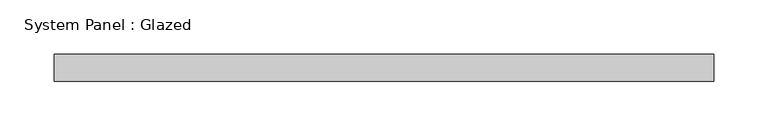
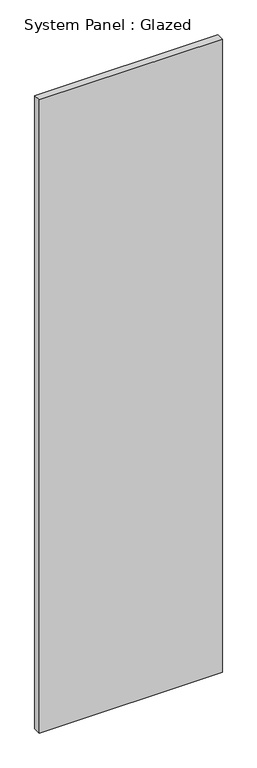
"""IFC4 building model written with IfcOpenShell, lengths in millimetres: plate geometry, System Panel : Glazed."""

import ifcopenshell
import ifcopenshell.guid

model = None  # the IFC model being written
_history = None  # IfcOwnerHistory: only IFC2X3 demands one
_inside = {}  # id of a spatial element -> (the spatial element, [elements in it])
_under = {}  # id of a project, library or spatial element -> (it, [spatial elements below it])
_declared = {}  # id of a project -> (the project, [libraries it declares])
_typed = {}  # id of a type object -> (the type object, [elements of that type])
_made_of = {}  # id of a material, layer set ... -> (it, [elements and type objects made of it])


def new_model(schema):
    """Start an empty IFC model of exactly this schema.

    Asked for "IFC4X3", IfcOpenShell would pick the latest addendum, in which some entities
    have other attributes; the version numbers below select the first issue.
    IFC2X3 requires an IfcOwnerHistory on every rooted entity: one is made here for all.
    """
    global model, _history
    if schema == "IFC4X3":
        model = ifcopenshell.file(schema_version=(4, 3, 0, 0))
    else:
        model = ifcopenshell.file(schema=schema)
    _inside.clear()
    _under.clear()
    _declared.clear()
    _typed.clear()
    _made_of.clear()
    _history = None
    if model.schema == "IFC2X3":
        org = make("IfcOrganization", Name="unknown")
        user = make(
            "IfcPersonAndOrganization",
            ThePerson=make("IfcPerson", FamilyName="unknown"),
            TheOrganization=org,
        )
        app = make(
            "IfcApplication",
            ApplicationDeveloper=org,
            Version="unknown",
            ApplicationFullName="unknown",
            ApplicationIdentifier="unknown",
        )
        _history = make(
            "IfcOwnerHistory",
            OwningUser=user,
            OwningApplication=app,
            ChangeAction="ADDED",
            CreationDate=0,
        )
    return model


def make(cls, **values):
    """One entity of the class cls with the attributes given. An attribute that is None is left unset."""
    return model.create_entity(
        cls, **{name: value for name, value in values.items() if value is not None}
    )


def rooted(cls, **values):
    """An entity with a GlobalId (a new one), such as an element, a storey or a relation."""
    return make(cls, GlobalId=ifcopenshell.guid.new(), OwnerHistory=_history, **values)


def si_unit(unit_type, name, prefix=None):
    """IfcSIUnit, for example si_unit("LENGTHUNIT", "METRE", prefix="MILLI")."""
    return make("IfcSIUnit", UnitType=unit_type, Prefix=prefix, Name=name)


def assignment(units):
    """IfcUnitAssignment: the units of a project."""
    return None if units is None else make("IfcUnitAssignment", Units=units)


def point(xyz):
    """IfcCartesianPoint."""
    return None if xyz is None else make("IfcCartesianPoint", Coordinates=xyz)


def direction(xyz):
    """IfcDirection."""
    return None if xyz is None else make("IfcDirection", DirectionRatios=xyz)


def frame(location, z_axis=None, x_axis=None):
    """IfcAxis2Placement3D, a coordinate frame: its origin and axes. An axis left out is left unset."""
    return make(
        "IfcAxis2Placement3D",
        Location=point(location),
        Axis=direction(z_axis),
        RefDirection=direction(x_axis),
    )


def origin():
    """The frame at (0, 0, 0) with its axes left unset."""
    return frame((0.0, 0.0, 0.0))


def origin_with_axes():
    """The frame at (0, 0, 0) with the z axis (0, 0, 1) and the x axis (1, 0, 0) written out."""
    return frame((0.0, 0.0, 0.0), z_axis=(0.0, 0.0, 1.0), x_axis=(1.0, 0.0, 0.0))


def place(relative_to, where):
    """IfcLocalPlacement: puts the frame where relative to a parent placement (None: the world)."""
    return make(
        "IfcLocalPlacement", PlacementRelTo=relative_to, RelativePlacement=where
    )


def context(
    kind, dimensions, precision=None, world=None, true_north=None, identifier=None
):
    """IfcGeometricRepresentationContext, for example the 3D "Model" context."""
    return make(
        "IfcGeometricRepresentationContext",
        ContextIdentifier=identifier,
        ContextType=kind,
        CoordinateSpaceDimension=dimensions,
        Precision=precision,
        WorldCoordinateSystem=world,
        TrueNorth=true_north,
    )


def project(units=None, contexts=None):
    """IfcProject with its units and contexts."""
    return rooted(
        "IfcProject",
        Name="project",
        RepresentationContexts=contexts,
        UnitsInContext=assignment(units),
    )


def spatial(cls, under=None, at=None, **own):
    """A site, building, storey or space (cls), placed at a placement, below another one or the project."""
    s = rooted(cls, ObjectPlacement=at, **own)
    if under is not None:
        _under.setdefault(under.id(), (under, []))[1].append(s)
    return s


def polyline(points):
    """IfcPolyline through the points."""
    return make("IfcPolyline", Points=[point(p) for p in points])


def outline(outer, holes=None, kind="AREA"):
    """IfcArbitraryClosedProfileDef: a profile drawn as a closed curve; with holes, ...WithVoids."""
    if holes is None:
        return make("IfcArbitraryClosedProfileDef", ProfileType=kind, OuterCurve=outer)
    return make(
        "IfcArbitraryProfileDefWithVoids",
        ProfileType=kind,
        OuterCurve=outer,
        InnerCurves=holes,
    )


def extrude(swept, where, along, depth):
    """IfcExtrudedAreaSolid: the profile swept, set in the frame where, extruded along a direction by depth."""
    return make(
        "IfcExtrudedAreaSolid",
        SweptArea=swept,
        Position=where,
        ExtrudedDirection=direction(along),
        Depth=depth,
    )


def shape(context_of_items, identifier, shape_type, items):
    """IfcShapeRepresentation: the items that make up one representation, for example the "Body"."""
    return make(
        "IfcShapeRepresentation",
        ContextOfItems=context_of_items,
        RepresentationIdentifier=identifier,
        RepresentationType=shape_type,
        Items=items,
    )


def source(mapping_origin, context_of_items, identifier, shape_type, items):
    """IfcRepresentationMap: a shape defined once, which mapped items show again and again."""
    return make(
        "IfcRepresentationMap",
        MappingOrigin=mapping_origin,
        MappedRepresentation=shape(context_of_items, identifier, shape_type, items),
    )


def transform(
    local_origin,
    x_axis=None,
    y_axis=None,
    z_axis=None,
    scale=None,
    scale2=None,
    scale3=None,
    uniform=True,
):
    """IfcCartesianTransformationOperator3D, or its non-uniform kind. x_axis, y_axis, z_axis: its Axis1, 2, 3."""
    if uniform:
        return make(
            "IfcCartesianTransformationOperator3D",
            Axis1=direction(x_axis),
            Axis2=direction(y_axis),
            LocalOrigin=point(local_origin),
            Scale=scale,
            Axis3=direction(z_axis),
        )
    return make(
        "IfcCartesianTransformationOperator3DnonUniform",
        Axis1=direction(x_axis),
        Axis2=direction(y_axis),
        LocalOrigin=point(local_origin),
        Scale=scale,
        Axis3=direction(z_axis),
        Scale2=scale2,
        Scale3=scale3,
    )


def mapped(mapping_source, mapping_target):
    """IfcMappedItem: shows the shape of a source again, moved by a transform."""
    return make(
        "IfcMappedItem", MappingSource=mapping_source, MappingTarget=mapping_target
    )


def made_of(thing, what):
    """Note that an element or type object is made of a material, layer set ...; save() writes the relation."""
    if what is not None:
        _made_of.setdefault(what.id(), (what, []))[1].append(thing)
    return thing


def element(
    cls,
    number,
    at=None,
    inside=None,
    cuts=None,
    type_object=None,
    material=None,
    context=None,
    identifier="Body",
    shape_type=None,
    held_by="IfcProductDefinitionShape",
    body=None,
    shapes=None,
    **own,
):
    """One element of the class cls, such as IfcWall. Its Tag is "e" and its number.

    at: its placement. inside: the storey or other place that contains it. cuts: it is an
    opening in that element (IfcRelVoidsElement). A single representation is given by context,
    identifier, shape_type and body (its items); several are given by shapes. held_by: the class
    of the entity that holds the representations. save() writes the other relations.
    """
    e = rooted(cls, Tag="e%d" % number, ObjectPlacement=at, **own)
    if body is not None:
        shapes = [shape(context, identifier, shape_type, body)]
    if shapes is not None:
        e.Representation = make(held_by, Representations=shapes)
    if inside is not None:
        _inside.setdefault(inside.id(), (inside, []))[1].append(e)
    if cuts is not None:
        rooted(
            "IfcRelVoidsElement", RelatingBuildingElement=cuts, RelatedOpeningElement=e
        )
    if type_object is not None:
        _typed.setdefault(type_object.id(), (type_object, []))[1].append(e)
    return made_of(e, material)


def aggregate(whole, parts):
    """IfcRelAggregates: a whole, such as a stair, and the parts it consists of."""
    return rooted("IfcRelAggregates", RelatingObject=whole, RelatedObjects=parts)


def save(model, path):
    """Write the relations noted so far, then the file.

    IfcRelAggregates (storeys below a building ...), IfcRelContainedInSpatialStructure (elements
    in a storey), IfcRelDefinesByType, IfcRelAssociatesMaterial and IfcRelDeclares: one each for
    every whole, place, type object, material and project.
    """
    for whole, parts in _under.values():
        aggregate(whole, parts)
    for where, things in _inside.values():
        rooted(
            "IfcRelContainedInSpatialStructure",
            RelatedElements=things,
            RelatingStructure=where,
        )
    for kind, things in _typed.values():
        rooted("IfcRelDefinesByType", RelatedObjects=things, RelatingType=kind)
    for what, things in _made_of.values():
        rooted("IfcRelAssociatesMaterial", RelatedObjects=things, RelatingMaterial=what)
    for by, libraries in _declared.values():
        rooted("IfcRelDeclares", RelatingContext=by, RelatedDefinitions=libraries)
    model.write(path)


def system_panel_glazed_06e6dd14(model_context):
    return source(origin(), model_context, "Body", "SweptSolid", [
        extrude(outline(polyline([(304.5833334, 24.5), (-304.5833334, 24.5), (-304.5833334, 49.5), (304.5833334, 49.5), (304.5833334, 24.5)])), origin_with_axes(), (0.0, 0.0, 1.0), 2225.0),
    ])


if __name__ == "__main__":
    model = new_model("IFC4")
    model_context = context("Model", 3, world=origin())
    ifc_project = project(units=[si_unit("LENGTHUNIT", "METRE", prefix="MILLI")], contexts=[model_context])
    site = spatial("IfcSite", under=ifc_project)
    building = spatial("IfcBuilding", under=site)
    placement = place(None, origin())
    system_panel_glazed_shape = system_panel_glazed_06e6dd14(model_context)
    element("IfcPlate", 1, ObjectType="System Panel : Glazed", at=placement, inside=building, context=model_context, shape_type="MappedRepresentation", body=[
        mapped(system_panel_glazed_shape, transform((0.0, 0.0, 0.0), x_axis=(1.0, 0.0, 0.0), y_axis=(0.0, 1.0, 0.0), z_axis=(0.0, 0.0, 1.0))),
    ])
    save(model, "model.ifc")
